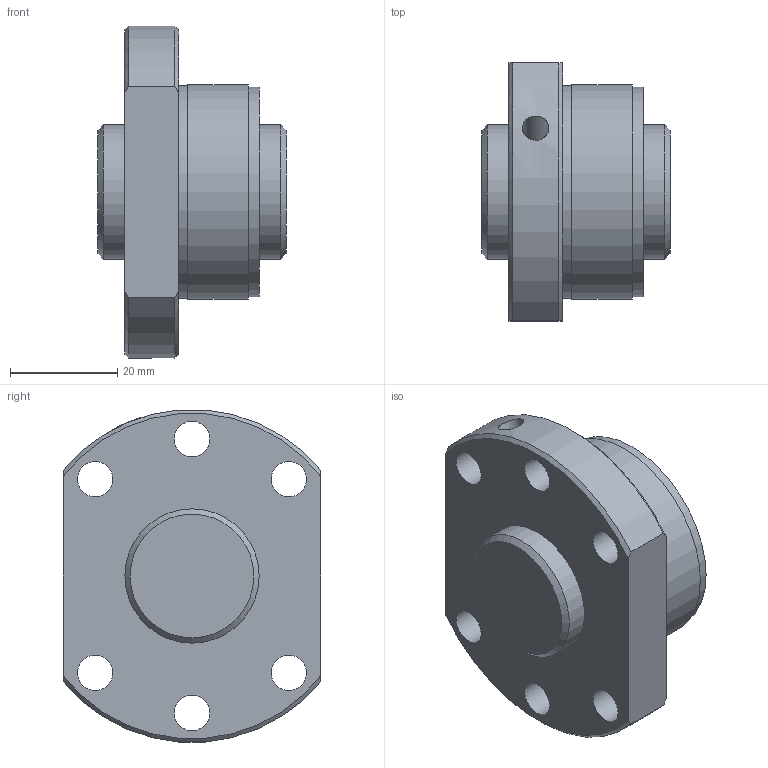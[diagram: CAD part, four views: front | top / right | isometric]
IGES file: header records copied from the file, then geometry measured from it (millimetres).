
Start section: Data from Parasolid IGES Translator 26.0.171, Copyright(c) 2006 Siemens PLM Software. All Rights Reserved.
Global section: file name: SDA2505V-3G0+35LC0(0G000).igs; native system: By Siemens PLM Incorporated; preprocessor: XPlus GENERIC/IGES 26.0.171; author: Noname; organization: Noname; date: 20240528.113034; units: millimetre
Bounding box: 35 x 48 x 61.8 mm (x, y, z)
Surface area: 14695.4 mm2 (no closed solid volume)
Topology: 0 solids, 0 shells, 31 faces, 142 edges, 121 vertices
Faces by surface type: revolution 22, extrusion 9
